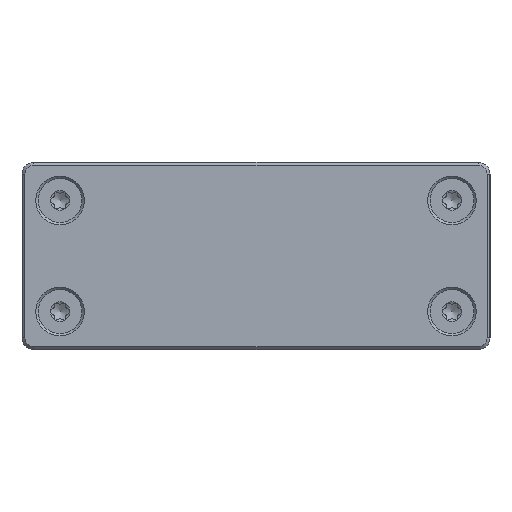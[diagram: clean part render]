
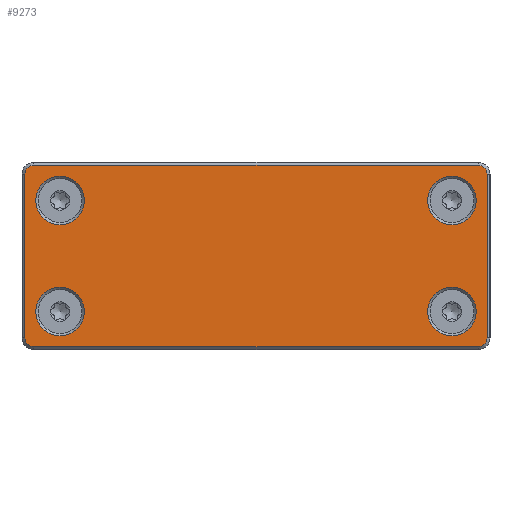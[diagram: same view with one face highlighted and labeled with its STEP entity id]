
A CAD part, left-side view. The second image highlights one B-rep face of the part: STEP entity #9273.
In plain terms, the highlighted planar face has unit normal (-1, 0, 0).
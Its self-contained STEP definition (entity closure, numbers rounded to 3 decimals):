
#454=FACE_BOUND('',#1497,.T.);
#455=FACE_BOUND('',#1498,.T.);
#456=FACE_BOUND('',#1499,.T.);
#457=FACE_BOUND('',#1500,.T.);
#637=PLANE('',#10024);
#946=FACE_OUTER_BOUND('',#1496,.T.);
#1496=EDGE_LOOP('',(#6649,#6650,#6651,#6652,#6653,#6654,#6655,#6656));
#1497=EDGE_LOOP('',(#6657));
#1498=EDGE_LOOP('',(#6658));
#1499=EDGE_LOOP('',(#6659));
#1500=EDGE_LOOP('',(#6660));
#2231=LINE('',#14106,#2857);
#2232=LINE('',#14110,#2858);
#2233=LINE('',#14114,#2859);
#2234=LINE('',#14118,#2860);
#2857=VECTOR('',#11594,10.);
#2858=VECTOR('',#11597,10.);
#2859=VECTOR('',#11600,10.);
#2860=VECTOR('',#11603,10.);
#3347=CIRCLE('',#9989,4.15);
#3350=CIRCLE('',#9993,4.15);
#3353=CIRCLE('',#9997,4.15);
#3356=CIRCLE('',#10001,4.15);
#3369=CIRCLE('',#10025,1.5);
#3370=CIRCLE('',#10026,1.5);
#3371=CIRCLE('',#10027,1.5);
#3372=CIRCLE('',#10028,1.5);
#3914=VERTEX_POINT('',#14017);
#3917=VERTEX_POINT('',#14025);
#3920=VERTEX_POINT('',#14033);
#3923=VERTEX_POINT('',#14041);
#3939=VERTEX_POINT('',#14104);
#3940=VERTEX_POINT('',#14105);
#3941=VERTEX_POINT('',#14107);
#3942=VERTEX_POINT('',#14109);
#3943=VERTEX_POINT('',#14111);
#3944=VERTEX_POINT('',#14113);
#3945=VERTEX_POINT('',#14115);
#3946=VERTEX_POINT('',#14117);
#4989=EDGE_CURVE('',#3914,#3914,#3347,.T.);
#4993=EDGE_CURVE('',#3917,#3917,#3350,.T.);
#4997=EDGE_CURVE('',#3920,#3920,#3353,.T.);
#5001=EDGE_CURVE('',#3923,#3923,#3356,.T.);
#5037=EDGE_CURVE('',#3939,#3940,#2231,.T.);
#5038=EDGE_CURVE('',#3941,#3939,#3369,.T.);
#5039=EDGE_CURVE('',#3942,#3941,#2232,.T.);
#5040=EDGE_CURVE('',#3943,#3942,#3370,.T.);
#5041=EDGE_CURVE('',#3944,#3943,#2233,.T.);
#5042=EDGE_CURVE('',#3945,#3944,#3371,.T.);
#5043=EDGE_CURVE('',#3946,#3945,#2234,.T.);
#5044=EDGE_CURVE('',#3940,#3946,#3372,.T.);
#6649=ORIENTED_EDGE('',*,*,#5037,.F.);
#6650=ORIENTED_EDGE('',*,*,#5038,.F.);
#6651=ORIENTED_EDGE('',*,*,#5039,.F.);
#6652=ORIENTED_EDGE('',*,*,#5040,.F.);
#6653=ORIENTED_EDGE('',*,*,#5041,.F.);
#6654=ORIENTED_EDGE('',*,*,#5042,.F.);
#6655=ORIENTED_EDGE('',*,*,#5043,.F.);
#6656=ORIENTED_EDGE('',*,*,#5044,.F.);
#6657=ORIENTED_EDGE('',*,*,#4989,.T.);
#6658=ORIENTED_EDGE('',*,*,#4993,.T.);
#6659=ORIENTED_EDGE('',*,*,#4997,.T.);
#6660=ORIENTED_EDGE('',*,*,#5001,.T.);
#9273=ADVANCED_FACE('',(#946,#454,#455,#456,#457),#637,.T.);
#9989=AXIS2_PLACEMENT_3D('',#14018,#11496,#11497);
#9993=AXIS2_PLACEMENT_3D('',#14026,#11505,#11506);
#9997=AXIS2_PLACEMENT_3D('',#14034,#11514,#11515);
#10001=AXIS2_PLACEMENT_3D('',#14042,#11523,#11524);
#10024=AXIS2_PLACEMENT_3D('',#14103,#11592,#11593);
#10025=AXIS2_PLACEMENT_3D('',#14108,#11595,#11596);
#10026=AXIS2_PLACEMENT_3D('',#14112,#11598,#11599);
#10027=AXIS2_PLACEMENT_3D('',#14116,#11601,#11602);
#10028=AXIS2_PLACEMENT_3D('',#14119,#11604,#11605);
#11496=DIRECTION('center_axis',(1.,0.,0.));
#11497=DIRECTION('ref_axis',(0.,-1.,0.));
#11505=DIRECTION('center_axis',(1.,0.,0.));
#11506=DIRECTION('ref_axis',(0.,-1.,0.));
#11514=DIRECTION('center_axis',(1.,0.,0.));
#11515=DIRECTION('ref_axis',(0.,-1.,0.));
#11523=DIRECTION('center_axis',(1.,0.,0.));
#11524=DIRECTION('ref_axis',(0.,-1.,0.));
#11592=DIRECTION('center_axis',(-1.,0.,0.));
#11593=DIRECTION('ref_axis',(0.,-1.,0.));
#11594=DIRECTION('',(0.,-1.,0.));
#11595=DIRECTION('center_axis',(1.,0.,0.));
#11596=DIRECTION('ref_axis',(0.,0.707,0.707));
#11597=DIRECTION('',(0.,0.,1.));
#11598=DIRECTION('center_axis',(1.,0.,0.));
#11599=DIRECTION('ref_axis',(0.,0.707,-0.707));
#11600=DIRECTION('',(0.,1.,0.));
#11601=DIRECTION('center_axis',(1.,0.,0.));
#11602=DIRECTION('ref_axis',(0.,-0.707,-0.707));
#11603=DIRECTION('',(0.,0.,-1.));
#11604=DIRECTION('center_axis',(1.,0.,0.));
#11605=DIRECTION('ref_axis',(0.,-0.707,0.707));
#14017=CARTESIAN_POINT('',(-1024.004,369.073,187.792));
#14018=CARTESIAN_POINT('Origin',(-1024.004,364.923,187.792));
#14025=CARTESIAN_POINT('',(-1024.004,302.073,206.792));
#14026=CARTESIAN_POINT('Origin',(-1024.004,297.923,206.792));
#14033=CARTESIAN_POINT('',(-1024.004,369.073,206.792));
#14034=CARTESIAN_POINT('Origin',(-1024.004,364.923,206.792));
#14041=CARTESIAN_POINT('',(-1024.004,302.073,187.792));
#14042=CARTESIAN_POINT('Origin',(-1024.004,297.923,187.792));
#14103=CARTESIAN_POINT('Origin',(-1024.004,331.423,197.292));
#14104=CARTESIAN_POINT('',(-1024.004,369.423,212.792));
#14105=CARTESIAN_POINT('',(-1024.004,293.423,212.792));
#14106=CARTESIAN_POINT('',(-1024.004,311.423,212.792));
#14107=CARTESIAN_POINT('',(-1024.004,370.923,211.292));
#14108=CARTESIAN_POINT('Origin',(-1024.004,369.423,211.292));
#14109=CARTESIAN_POINT('',(-1024.004,370.923,183.292));
#14110=CARTESIAN_POINT('',(-1024.004,370.923,205.292));
#14111=CARTESIAN_POINT('',(-1024.004,369.423,181.792));
#14112=CARTESIAN_POINT('Origin',(-1024.004,369.423,183.292));
#14113=CARTESIAN_POINT('',(-1024.004,293.423,181.792));
#14114=CARTESIAN_POINT('',(-1024.004,351.423,181.792));
#14115=CARTESIAN_POINT('',(-1024.004,291.923,183.292));
#14116=CARTESIAN_POINT('Origin',(-1024.004,293.423,183.292));
#14117=CARTESIAN_POINT('',(-1024.004,291.923,211.292));
#14118=CARTESIAN_POINT('',(-1024.004,291.923,189.292));
#14119=CARTESIAN_POINT('Origin',(-1024.004,293.423,211.292));
